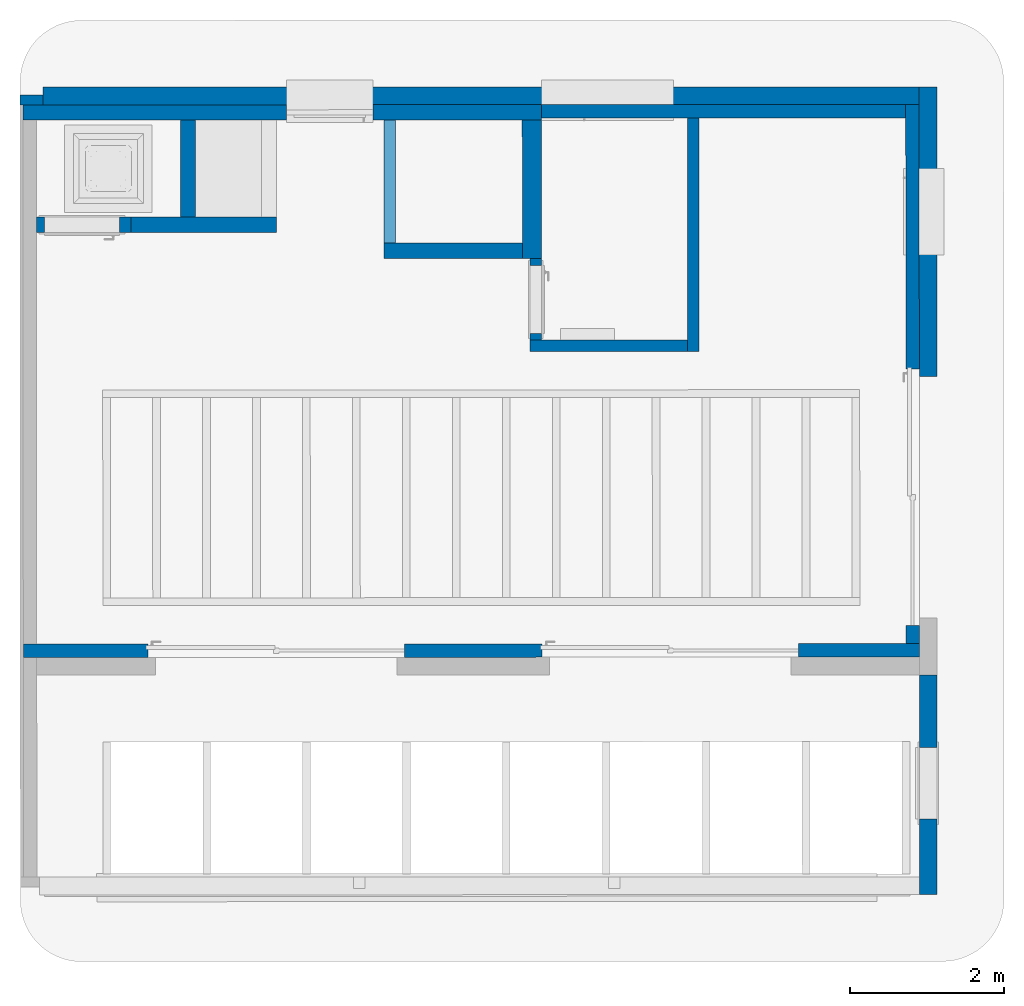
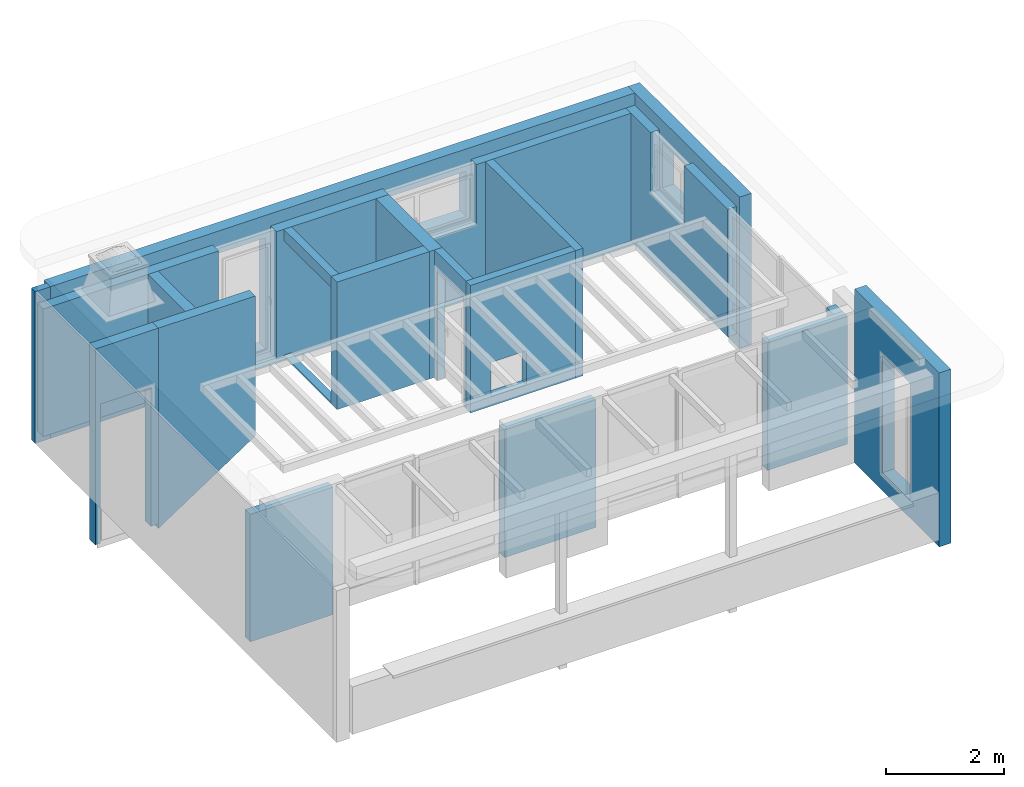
# One storey, part 2 of 7: 17 walls, 14 openings.
"""IFC2X3 building model written with IfcOpenShell, lengths in metres."""

import ifcopenshell
import ifcopenshell.guid

model = None  # the IFC model being written
_history = None  # IfcOwnerHistory: only IFC2X3 demands one
_inside = {}  # id of a spatial element -> (the spatial element, [elements in it])
_under = {}  # id of a project, library or spatial element -> (it, [spatial elements below it])
_declared = {}  # id of a project -> (the project, [libraries it declares])
_typed = {}  # id of a type object -> (the type object, [elements of that type])
_made_of = {}  # id of a material, layer set ... -> (it, [elements and type objects made of it])


def new_model(schema):
    """Start an empty IFC model of exactly this schema.

    Asked for "IFC4X3", IfcOpenShell would pick the latest addendum, in which some entities
    have other attributes; the version numbers below select the first issue.
    IFC2X3 requires an IfcOwnerHistory on every rooted entity: one is made here for all.
    """
    global model, _history
    if schema == "IFC4X3":
        model = ifcopenshell.file(schema_version=(4, 3, 0, 0))
    else:
        model = ifcopenshell.file(schema=schema)
    _inside.clear()
    _under.clear()
    _declared.clear()
    _typed.clear()
    _made_of.clear()
    _history = None
    if model.schema == "IFC2X3":
        org = make("IfcOrganization", Name="unknown")
        user = make(
            "IfcPersonAndOrganization",
            ThePerson=make("IfcPerson", FamilyName="unknown"),
            TheOrganization=org,
        )
        app = make(
            "IfcApplication",
            ApplicationDeveloper=org,
            Version="unknown",
            ApplicationFullName="unknown",
            ApplicationIdentifier="unknown",
        )
        _history = make(
            "IfcOwnerHistory",
            OwningUser=user,
            OwningApplication=app,
            ChangeAction="ADDED",
            CreationDate=0,
        )
    return model


def make(cls, **values):
    """One entity of the class cls with the attributes given. An attribute that is None is left unset."""
    return model.create_entity(
        cls, **{name: value for name, value in values.items() if value is not None}
    )


def entity(cls, *values):
    """Any entity or typed value of the class cls, its attributes in the order of the schema. None: left unset."""
    e = model.create_entity(cls)
    for i, value in enumerate(values):
        if value is not None:
            e[i] = value
    return e


def rooted(cls, **values):
    """An entity with a GlobalId (a new one), such as an element, a storey or a relation."""
    return make(cls, GlobalId=ifcopenshell.guid.new(), OwnerHistory=_history, **values)


def si_unit(unit_type, name, prefix=None):
    """IfcSIUnit, for example si_unit("LENGTHUNIT", "METRE", prefix="MILLI")."""
    return make("IfcSIUnit", UnitType=unit_type, Prefix=prefix, Name=name)


def converted_unit(unit_type, name, factor, base, dimensions=None, offset=None):
    """IfcConversionBasedUnit, such as the inch: factor (a typed value) times the base unit."""
    return make(
        "IfcConversionBasedUnit"
        if offset is None
        else "IfcConversionBasedUnitWithOffset",
        ConversionOffset=offset,
        Dimensions=None
        if dimensions is None
        else entity("IfcDimensionalExponents", *dimensions),
        UnitType=unit_type,
        Name=name,
        ConversionFactor=make(
            "IfcMeasureWithUnit", ValueComponent=factor, UnitComponent=base
        ),
    )


def derived_unit(unit_type, elements):
    """IfcDerivedUnit: a product of units, each with its exponent."""
    return make(
        "IfcDerivedUnit",
        Elements=[
            make("IfcDerivedUnitElement", Unit=unit, Exponent=power)
            for unit, power in elements
        ],
        UnitType=unit_type,
    )


def assignment(units):
    """IfcUnitAssignment: the units of a project."""
    return None if units is None else make("IfcUnitAssignment", Units=units)


def point(xyz):
    """IfcCartesianPoint."""
    return None if xyz is None else make("IfcCartesianPoint", Coordinates=xyz)


def direction(xyz):
    """IfcDirection."""
    return None if xyz is None else make("IfcDirection", DirectionRatios=xyz)


def frame(location, z_axis=None, x_axis=None):
    """IfcAxis2Placement3D, a coordinate frame: its origin and axes. An axis left out is left unset."""
    return make(
        "IfcAxis2Placement3D",
        Location=point(location),
        Axis=direction(z_axis),
        RefDirection=direction(x_axis),
    )


def frame_2d(location, x_axis=None):
    """IfcAxis2Placement2D, a coordinate frame in the plane: its origin and x axis."""
    return make(
        "IfcAxis2Placement2D", Location=point(location), RefDirection=direction(x_axis)
    )


def origin():
    """The frame at (0, 0, 0) with its axes left unset."""
    return frame((0.0, 0.0, 0.0))


def origin_with_axes():
    """The frame at (0, 0, 0) with the z axis (0, 0, 1) and the x axis (1, 0, 0) written out."""
    return frame((0.0, 0.0, 0.0), z_axis=(0.0, 0.0, 1.0), x_axis=(1.0, 0.0, 0.0))


def place(relative_to, where):
    """IfcLocalPlacement: puts the frame where relative to a parent placement (None: the world)."""
    return make(
        "IfcLocalPlacement", PlacementRelTo=relative_to, RelativePlacement=where
    )


def context(
    kind, dimensions, precision=None, world=None, true_north=None, identifier=None
):
    """IfcGeometricRepresentationContext, for example the 3D "Model" context."""
    return make(
        "IfcGeometricRepresentationContext",
        ContextIdentifier=identifier,
        ContextType=kind,
        CoordinateSpaceDimension=dimensions,
        Precision=precision,
        WorldCoordinateSystem=world,
        TrueNorth=true_north,
    )


def subcontext(parent, identifier, kind, view, scale=None):
    """IfcGeometricRepresentationSubContext, for example "Body" below "Model"."""
    return make(
        "IfcGeometricRepresentationSubContext",
        ContextIdentifier=identifier,
        ContextType=kind,
        ParentContext=parent,
        TargetScale=scale,
        TargetView=view,
    )


def project(units=None, contexts=None):
    """IfcProject with its units and contexts."""
    return rooted(
        "IfcProject",
        Name="project",
        RepresentationContexts=contexts,
        UnitsInContext=assignment(units),
    )


def spatial(cls, under=None, at=None, **own):
    """A site, building, storey or space (cls), placed at a placement, below another one or the project."""
    s = rooted(cls, ObjectPlacement=at, **own)
    if under is not None:
        _under.setdefault(under.id(), (under, []))[1].append(s)
    return s


def profile(cls, at=None, kind="AREA", **sizes):
    """A parametric profile (cls). Its sizes go by their IFC names, for example OverallWidth=200.0."""
    return make(cls, ProfileType=kind, Position=at, **sizes)


def rectangle(**sizes):
    """IfcRectangleProfileDef."""
    return profile("IfcRectangleProfileDef", **sizes)


def extrude(swept, where, along, depth):
    """IfcExtrudedAreaSolid: the profile swept, set in the frame where, extruded along a direction by depth."""
    return make(
        "IfcExtrudedAreaSolid",
        SweptArea=swept,
        Position=where,
        ExtrudedDirection=direction(along),
        Depth=depth,
    )


def clip(a, b, op="DIFFERENCE"):
    """IfcBooleanClippingResult: the solid a cut by the half space b."""
    return make(
        "IfcBooleanClippingResult", Operator=op, FirstOperand=a, SecondOperand=b
    )


def halfspace(plane, agree):
    """IfcHalfSpaceSolid: all space on one side of the plane z = 0 of the frame plane."""
    return make(
        "IfcHalfSpaceSolid",
        BaseSurface=make("IfcPlane", Position=plane),
        AgreementFlag=agree,
    )


def faces_of(points, faces, orient=None, outer=None):
    """IfcFace entities. A face is a list of loops; a loop is a list of indices into points, from 0.

    orient and outer hold one flag for each loop. By default every Orientation is true, the
    first loop of a face is its IfcFaceOuterBound and the others are IfcFaceBound.
    """
    made = []
    for i, loops in enumerate(faces):
        bounds = []
        for j, loop in enumerate(loops):
            is_outer = j == 0 if outer is None else outer[i][j]
            bounds.append(
                make(
                    "IfcFaceOuterBound" if is_outer else "IfcFaceBound",
                    Bound=make("IfcPolyLoop", Polygon=[points[k] for k in loop]),
                    Orientation=True if orient is None else orient[i][j],
                )
            )
        made.append(make("IfcFace", Bounds=bounds))
    return made


def faceted_brep(points, faces, orient=None, outer=None, voids=None):
    """IfcFacetedBrep: a solid bounded by flat faces; with voids (closed shells), ...WithVoids."""
    shared = [point(p) for p in points]
    hull = make("IfcClosedShell", CfsFaces=faces_of(shared, faces, orient, outer))
    if voids is None:
        return make("IfcFacetedBrep", Outer=hull)
    return make(
        "IfcFacetedBrepWithVoids",
        Outer=hull,
        Voids=[
            make(cls, CfsFaces=faces_of(shared, fs, o, b)) for cls, fs, o, b in voids
        ],
    )


def shape(context_of_items, identifier, shape_type, items):
    """IfcShapeRepresentation: the items that make up one representation, for example the "Body"."""
    return make(
        "IfcShapeRepresentation",
        ContextOfItems=context_of_items,
        RepresentationIdentifier=identifier,
        RepresentationType=shape_type,
        Items=items,
    )


def material(Name=None, Category=None):
    """IfcMaterial."""
    return make("IfcMaterial", Name=Name, Category=Category)


def layer(
    of_material, thickness, ventilated=None, Name=None, Category=None, Priority=None
):
    """IfcMaterialLayer: one layer of a wall or slab, of a material (None: an air gap)."""
    return make(
        "IfcMaterialLayer",
        Material=of_material,
        LayerThickness=thickness,
        IsVentilated=ventilated,
        Name=Name,
        Category=Category,
        Priority=Priority,
    )


def layer_set(layers, Name=None):
    """IfcMaterialLayerSet."""
    return make("IfcMaterialLayerSet", MaterialLayers=layers, LayerSetName=Name)


def layer_usage(for_layer_set, set_direction, sense, offset, extent=None):
    """IfcMaterialLayerSetUsage: how a layer set lies in its element."""
    return make(
        "IfcMaterialLayerSetUsage",
        ForLayerSet=for_layer_set,
        LayerSetDirection=set_direction,
        DirectionSense=sense,
        OffsetFromReferenceLine=offset,
        ReferenceExtent=extent,
    )


def made_of(thing, what):
    """Note that an element or type object is made of a material, layer set ...; save() writes the relation."""
    if what is not None:
        _made_of.setdefault(what.id(), (what, []))[1].append(thing)
    return thing


def element(
    cls,
    number,
    at=None,
    inside=None,
    cuts=None,
    type_object=None,
    material=None,
    context=None,
    identifier="Body",
    shape_type=None,
    held_by="IfcProductDefinitionShape",
    body=None,
    shapes=None,
    **own,
):
    """One element of the class cls, such as IfcWall. Its Tag is "e" and its number.

    at: its placement. inside: the storey or other place that contains it. cuts: it is an
    opening in that element (IfcRelVoidsElement). A single representation is given by context,
    identifier, shape_type and body (its items); several are given by shapes. held_by: the class
    of the entity that holds the representations. save() writes the other relations.
    """
    e = rooted(cls, Tag="e%d" % number, ObjectPlacement=at, **own)
    if body is not None:
        shapes = [shape(context, identifier, shape_type, body)]
    if shapes is not None:
        e.Representation = make(held_by, Representations=shapes)
    if inside is not None:
        _inside.setdefault(inside.id(), (inside, []))[1].append(e)
    if cuts is not None:
        rooted(
            "IfcRelVoidsElement", RelatingBuildingElement=cuts, RelatedOpeningElement=e
        )
    if type_object is not None:
        _typed.setdefault(type_object.id(), (type_object, []))[1].append(e)
    return made_of(e, material)


def aggregate(whole, parts):
    """IfcRelAggregates: a whole, such as a stair, and the parts it consists of."""
    return rooted("IfcRelAggregates", RelatingObject=whole, RelatedObjects=parts)


def save(model, path):
    """Write the relations noted so far, then the file.

    IfcRelAggregates (storeys below a building ...), IfcRelContainedInSpatialStructure (elements
    in a storey), IfcRelDefinesByType, IfcRelAssociatesMaterial and IfcRelDeclares: one each for
    every whole, place, type object, material and project.
    """
    for whole, parts in _under.values():
        aggregate(whole, parts)
    for where, things in _inside.values():
        rooted(
            "IfcRelContainedInSpatialStructure",
            RelatedElements=things,
            RelatingStructure=where,
        )
    for kind, things in _typed.values():
        rooted("IfcRelDefinesByType", RelatedObjects=things, RelatingType=kind)
    for what, things in _made_of.values():
        rooted("IfcRelAssociatesMaterial", RelatedObjects=things, RelatingMaterial=what)
    for by, libraries in _declared.values():
        rooted("IfcRelDeclares", RelatingContext=by, RelatedDefinitions=libraries)
    model.write(path)


model = new_model("IFC2X3")

# Units and contexts
model_context = context("Model", 3, precision=1e-05, world=origin(), true_north=direction((0.772621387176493, -0.634867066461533)))
body_context = subcontext(model_context, "Body", "Model", "MODEL_VIEW")
ifc_project = project(units=[si_unit("LENGTHUNIT", "METRE"), si_unit("AREAUNIT", "SQUARE_METRE"), si_unit("VOLUMEUNIT", "CUBIC_METRE"), si_unit("MASSUNIT", "GRAM", prefix="KILO"), converted_unit("PLANEANGLEUNIT", "DEGREE", entity("IfcPlaneAngleMeasure", 0.0174532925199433), si_unit("PLANEANGLEUNIT", "RADIAN"), dimensions=[0, 0, 0, 0, 0, 0, 0]), derived_unit("THERMALTRANSMITTANCEUNIT", [(si_unit("POWERUNIT", "WATT"), 1), (si_unit("THERMODYNAMICTEMPERATUREUNIT", "KELVIN"), -1), (si_unit("LENGTHUNIT", "METRE"), -2)]), derived_unit("VOLUMETRICFLOWRATEUNIT", [(si_unit("LENGTHUNIT", "METRE"), 3), (converted_unit("TIMEUNIT", "hour", entity("IfcTimeMeasure", 3600.0), si_unit("TIMEUNIT", "SECOND"), dimensions=[0, 0, 1, 0, 0, 0, 0]), -1), (si_unit("LENGTHUNIT", "METRE"), -1)])], contexts=[model_context])

# Site, building, storey
site_placement = place(None, origin())
site = spatial("IfcSite", under=ifc_project, at=site_placement, Name="Modelle auf dem Nullpunkt", CompositionType="ELEMENT")
building_placement = place(site_placement, origin())
building = spatial("IfcBuilding", under=site, at=building_placement, Name="I", CompositionType="ELEMENT")
storey_placement = place(building_placement, origin())
storey = spatial("IfcBuildingStorey", under=building, at=storey_placement, Name="3.OG", CompositionType="ELEMENT", Elevation=0.0)

# Walls
ifc_material_1 = material(Name="Béton")
ifc_layer_1 = layer(ifc_material_1, 0.249999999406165)
ifc_layer_set_1 = layer_set([ifc_layer_1])
ifc_layer_usage_1 = layer_usage(ifc_layer_set_1, "AXIS2", "POSITIVE", -4.22370471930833e-16)
wall_1_placement = place(storey_placement, frame((36.1126542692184, 0.138998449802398, 444.6), z_axis=(0.0, 0.0, 1.0), x_axis=(-0.000353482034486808, 0.999999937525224, 0.0)))
element("IfcWallStandardCase", 1, at=wall_1_placement, inside=storey, material=ifc_layer_usage_1, Name="Betonwand", context=body_context, shape_type="SweptSolid", body=[
    extrude(rectangle(XDim=1.79999999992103, YDim=0.249999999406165, at=frame_2d((0.899999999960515, 0.124999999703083), x_axis=(1.0, 0.0))), origin_with_axes(), (0.0, 0.0, 1.0), 2.63),
])
ifc_material_2 = material(Name="Béton")
ifc_layer_2 = layer(ifc_material_2, 0.199999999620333)
ifc_layer_set_2 = layer_set([ifc_layer_2])
ifc_layer_usage_2 = layer_usage(ifc_layer_set_2, "AXIS2", "POSITIVE", -9.19403442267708e-17)
wall_2_placement = place(storey_placement, frame((35.8625835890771, 0.338910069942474, 444.6), z_axis=(0.0, 0.0, 1.0), x_axis=(-0.999999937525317, -0.000353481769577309, 0.0)))
element("IfcWallStandardCase", 2, at=wall_2_placement, inside=storey, material=ifc_layer_usage_2, Name="Betonwand", context=body_context, shape_type="SweptSolid", body=[
    extrude(rectangle(XDim=1.79999999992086, YDim=0.199999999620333, at=frame_2d((0.89999999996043, 0.0999999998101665), x_axis=(1.0, 0.0))), origin_with_axes(), (0.0, 0.0, 1.0), 2.63),
])
ifc_material_3 = material(Name="Isolation périphérique")
ifc_layer_3 = layer(ifc_material_3, 0.130000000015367)
ifc_layer_set_3 = layer_set([ifc_layer_3])
ifc_layer_usage_3 = layer_usage(ifc_layer_set_3, "AXIS2", "POSITIVE", -3.04754372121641e-16)
wall_3_placement = place(storey_placement, frame((29.3269477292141, 2.13659994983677, 444.35), z_axis=(0.0, 0.0, 1.0), x_axis=(0.999999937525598, 0.000353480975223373, 0.0)))
element("IfcWallStandardCase", 3, at=wall_3_placement, inside=storey, material=ifc_layer_usage_3, context=body_context, shape_type="SweptSolid", body=[
    extrude(rectangle(XDim=0.299999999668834, YDim=0.130000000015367, at=frame_2d((0.149999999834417, 0.0650000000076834), x_axis=(1.0, 0.0))), origin_with_axes(), (0.0, 0.0, 1.0), 3.13),
])
ifc_material_4 = material(Name="Brique")
ifc_layer_4 = layer(ifc_material_4, 0.149999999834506)
ifc_layer_set_4 = layer_set([ifc_layer_4])
ifc_layer_usage_4 = layer_usage(ifc_layer_set_4, "AXIS2", "POSITIVE", 0.0)
wall_4_placement = place(storey_placement, frame((38.012009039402, 1.96466994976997, 444.6), z_axis=(0.0, 0.0, 1.0), x_axis=(0.000353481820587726, -0.999999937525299, 0.0)))
element("IfcWallStandardCase", 4, at=wall_4_placement, inside=storey, material=ifc_layer_usage_4, context=body_context, shape_type="SweptSolid", body=[
    extrude(rectangle(XDim=3.03500000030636, YDim=0.149999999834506, at=frame_2d((1.51750000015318, 0.0749999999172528), x_axis=(1.0, 0.0))), origin_with_axes(), (0.0, 0.0, 1.0), 2.63),
])
ifc_material_5 = material(Name="Béton")
ifc_layer_5 = layer(ifc_material_5, 0.199999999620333)
ifc_layer_set_5 = layer_set([ifc_layer_5])
ifc_layer_usage_5 = layer_usage(ifc_layer_set_5, "AXIS2", "POSITIVE", -1.01228423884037e-16)
wall_5_placement = place(storey_placement, frame((32.6628607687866, 0.67777903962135, 443.096639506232), z_axis=(0.0, 0.0, 1.0), x_axis=(-0.999999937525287, -0.00035348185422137, 0.0)))
element("IfcWallStandardCase", 5, at=wall_5_placement, inside=storey, material=ifc_layer_usage_5, Name="Betonwand", context=body_context, shape_type="Clipping", body=[
    clip(extrude(rectangle(XDim=1.89006234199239, YDim=0.199999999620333, at=frame_2d((0.945031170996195, 0.0999999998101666), x_axis=(1.0, 0.0))), origin_with_axes(), (0.0, 0.0, 1.0), 4.13336049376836), halfspace(frame((0.945031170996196, 0.0999999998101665, 0.623459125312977), z_axis=(0.550681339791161, -2.87905794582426e-11, 0.834715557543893), x_axis=(-5.83468820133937e-15, -1.0, -3.46335583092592e-11)), True)),
])
ifc_material_6 = material(Name="Béton")
ifc_layer_6 = layer(ifc_material_6, 0.200000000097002)
ifc_layer_set_6 = layer_set([ifc_layer_6])
ifc_layer_usage_6 = layer_usage(ifc_layer_set_6, "AXIS2", "POSITIVE", -3.21489693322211e-19)
wall_6_placement = place(storey_placement, frame((31.4120182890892, 1.93733696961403, 445.168), z_axis=(0.0, 0.0, 1.0), x_axis=(0.000353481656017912, -0.999999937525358, 0.0)))
element("IfcWallStandardCase", 6, at=wall_6_placement, inside=storey, material=ifc_layer_usage_6, Name="Betonwand", context=body_context, shape_type="SweptSolid", body=[
    extrude(rectangle(XDim=1.26000000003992, YDim=0.200000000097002, at=frame_2d((0.63000000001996, 0.100000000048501), x_axis=(1.0, 0.0))), origin_with_axes(), (0.0, 0.0, 1.0), 2.062),
])

# Wall, opening
ifc_material_7 = material(Name="Béton")
wall_7_placement = place(storey_placement, frame((34.0620181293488, 0.338273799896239, 444.6)))
wall_7 = element("IfcWall", 7, at=wall_7_placement, inside=storey, material=ifc_material_7, Name="Betonwand", context=body_context, shape_type="Brep", body=[
    faceted_brep([(0.0, 1.5999998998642, 0.0), (0.1499999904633, 1.60005292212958, 0.0), (0.1499999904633, 1.60005292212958, 2.63), (0.0, 1.5999998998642, 2.63), (0.150565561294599, 5.30222653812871e-05, 0.0), (0.150565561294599, 5.30222653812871e-05, 2.63), (0.000565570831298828, 0.0, 0.0), (0.000565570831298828, 0.0, 2.63)], [[[0, 1, 2, 3]], [[1, 4, 5, 2]], [[4, 6, 7, 5]], [[6, 0, 3, 7]], [[3, 2, 5, 7]], [[0, 6, 4, 1]]], orient=[[False], [False], [False], [False], [False], [False]]),
])
opening_1_placement = place(wall_7_placement, frame((0.0, 0.0, 0.035)))
element("IfcOpeningElement", 8, at=opening_1_placement, cuts=wall_7, ObjectType="Opening", context=body_context, shape_type="Brep", body=[
    faceted_brep([(0.15056556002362, 5.30221462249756e-05, 0.0), (0.15056556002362, 5.30221462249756e-05, 2.365), (0.149999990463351, 1.60005292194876, 2.365), (0.149999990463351, 1.60005292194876, 0.0), (0.000565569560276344, 0.0, 0.0), (0.0, 1.59999989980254, 0.0), (0.0, 1.59999989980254, 2.365), (0.000565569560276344, 0.0, 2.365)], [[[0, 1, 2, 3]], [[4, 5, 6, 7]], [[3, 5, 4, 0]], [[2, 6, 5, 3]], [[1, 7, 6, 2]], [[0, 4, 7, 1]]], orient=[[False], [False], [False], [False], [False], [False]]),
])

# Wall, openings
ifc_material_8 = material(Name="Béton")
wall_8_placement = place(storey_placement, frame((40.851947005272, -4.87432573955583, 444.6)))
wall_8 = element("IfcWall", 9, at=wall_8_placement, inside=storey, material=ifc_material_8, Name="Betonwand", context=body_context, shape_type="Brep", body=[
    faceted_brep([(0.177479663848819, 6.18593029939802e-05, 0.0), (0.00247967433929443, 0.0, 0.0), (0.00247967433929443, 0.0, 2.63), (0.177479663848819, 6.18593029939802e-05, 2.63), (0.0, 7.01499956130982, 0.0), (0.0, 7.01499956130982, 2.63), (0.174999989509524, 7.01506142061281, 0.0), (0.174999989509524, 7.01506142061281, 2.63)], [[[0, 1, 2, 3]], [[1, 4, 5, 2]], [[4, 6, 7, 5]], [[6, 0, 3, 7]], [[3, 2, 5, 7]], [[0, 6, 4, 1]]], orient=[[False], [False], [False], [False], [False], [False]]),
])
opening_2_placement = place(wall_8_placement, frame((0.001215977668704, 0.234999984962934, 0.0)))
element("IfcOpeningElement", 10, at=opening_2_placement, cuts=wall_8, ObjectType="Opening", context=body_context, shape_type="Brep", body=[
    faceted_brep([(0.0, 3.33999979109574, 0.0), (0.0, 3.33999979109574, 2.63), (0.00118063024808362, 0.0, 2.63), (0.00118063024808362, 0.0, 0.0), (0.176180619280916, 6.18593692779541e-05, 0.0), (0.176180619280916, 6.18593692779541e-05, 2.63), (0.174999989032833, 3.34006165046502, 2.63), (0.174999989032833, 3.34006165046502, 0.0)], [[[0, 1, 2, 3]], [[4, 5, 6, 7]], [[1, 0, 7, 6]], [[2, 1, 6, 5]], [[3, 2, 5, 4]], [[4, 7, 0, 3]]], orient=[[False], [False], [False], [False], [False], [False]]),
])
opening_3_placement = place(wall_8_placement, frame((0.000293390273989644, 5.05499968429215, 1.39)))
element("IfcOpeningElement", 11, at=opening_3_placement, cuts=wall_8, ObjectType="Opening", context=body_context, shape_type="Brep", body=[
    faceted_brep([(0.000399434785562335, 0.0, 0.0), (0.0, 1.12999992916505, 0.0), (0.0, 1.12999992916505, 1.24), (0.000399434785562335, 0.0, 1.24), (0.175399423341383, 6.18593692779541e-05, 0.0), (0.175399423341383, 6.18593692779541e-05, 1.24), (0.174999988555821, 1.13006178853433, 1.24), (0.174999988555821, 1.13006178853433, 0.0)], [[[0, 1, 2, 3]], [[4, 5, 6, 7]], [[1, 0, 4, 7]], [[2, 1, 7, 6]], [[3, 2, 6, 5]], [[0, 3, 5, 4]]], orient=[[False], [False], [False], [False], [False], [False]]),
])

# Wall, opening
ifc_material_9 = material(Name="Isolation périphérique")
wall_9_placement = place(storey_placement, frame((41.0295698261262, -8.13926367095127, 444.35)))
wall_9 = element("IfcWall", 12, at=wall_9_placement, inside=storey, material=ifc_material_9, context=body_context, shape_type="Brep", body=[
    faceted_brep([(0.231010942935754, 8.1300795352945e-05, 0.0), (0.00101095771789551, 0.0, 0.0), (0.00101095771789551, 0.0, 3.59), (0.231010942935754, 8.1300795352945e-05, 3.59), (0.0, 2.85999982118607, 0.0), (0.0, 2.85999982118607, 3.59), (0.229999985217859, 2.86008112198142, 0.0), (0.229999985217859, 2.86008112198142, 3.59)], [[[0, 1, 2, 3]], [[1, 4, 5, 2]], [[4, 6, 7, 5]], [[6, 0, 3, 7]], [[3, 2, 5, 7]], [[0, 6, 4, 1]]], orient=[[False], [False], [False], [False], [False], [False]]),
])
opening_4_placement = place(wall_9_placement, frame((0.000334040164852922, 0.984999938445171, 0.37)))
element("IfcOpeningElement", 13, at=opening_4_placement, cuts=wall_9, ObjectType="Opening", context=body_context, shape_type="Brep", body=[
    faceted_brep([(0.000328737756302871, 0.0, 0.0), (0.0, 0.929999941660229, 0.0), (0.0, 0.929999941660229, 2.41), (0.000328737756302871, 0.0, 2.41), (0.230328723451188, 8.13007354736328e-05, 0.0), (0.230328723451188, 8.13007354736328e-05, 2.41), (0.229999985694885, 0.930081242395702, 2.41), (0.229999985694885, 0.930081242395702, 0.0)], [[[0, 1, 2, 3]], [[4, 5, 6, 7]], [[1, 0, 4, 7]], [[2, 1, 7, 6]], [[3, 2, 6, 5]], [[0, 3, 5, 4]]], orient=[[False], [False], [False], [False], [False], [False]]),
])

ifc_material_10 = material(Name="Béton")
wall_10_placement = place(storey_placement, frame((29.5424637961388, 0.476676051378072, 443.19)))
wall_10 = element("IfcWall", 14, at=wall_10_placement, inside=storey, material=ifc_material_10, Name="Betonwand", context=body_context, shape_type="Brep", body=[
    faceted_brep([(1.23033475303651, 0.200434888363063, 0.0), (1.23040544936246, 0.000434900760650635, 0.0), (1.23040544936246, 0.000434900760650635, 4.04), (1.23033475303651, 0.200434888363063, 4.04), (7.06963259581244e-05, 0.0, 0.0), (7.06963259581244e-05, 0.0, 4.04), (0.0, 0.199999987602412, 0.0), (0.0, 0.199999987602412, 4.04)], [[[0, 1, 2, 3]], [[1, 4, 5, 2]], [[4, 6, 7, 5]], [[6, 0, 3, 7]], [[3, 2, 5, 7]], [[0, 6, 4, 1]]], orient=[[False], [False], [False], [False], [False], [False]]),
])
opening_5_placement = place(wall_10_placement, frame((0.0999999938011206, 3.53479387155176e-05, 0.0)))
element("IfcOpeningElement", 15, at=opening_5_placement, cuts=wall_10, ObjectType="Opening", context=body_context, shape_type="Brep", body=[
    faceted_brep([(0.980070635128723, 0.000346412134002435, 0.0), (7.06963539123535e-05, 0.0, 0.0), (7.06963539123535e-05, 0.0, 2.87), (0.980070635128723, 0.000346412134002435, 2.87), (0.97999993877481, 0.200346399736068, 0.0), (0.97999993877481, 0.200346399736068, 2.87), (0.0, 0.199999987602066, 2.87), (0.0, 0.199999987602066, 0.0)], [[[0, 1, 2, 3]], [[4, 5, 6, 7]], [[1, 0, 4, 7]], [[2, 1, 7, 6]], [[3, 2, 6, 5]], [[0, 3, 5, 4]]], orient=[[False], [False], [False], [False], [False], [False]]),
])

ifc_material_11 = material(Name="Brique")
wall_11_placement = place(storey_placement, frame((35.9630289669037, -1.07105449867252, 444.6)))
wall_11 = element("IfcWall", 16, at=wall_11_placement, inside=storey, material=ifc_material_11, context=body_context, shape_type="Brep", body=[
    faceted_brep([(2.04999987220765, 0.150724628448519, 0.0), (2.05005289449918, 0.000724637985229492, 0.0), (2.05005289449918, 0.000724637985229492, 2.63), (2.04999987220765, 0.150724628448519, 2.63), (5.30222915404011e-05, 0.0, 0.0), (5.30222915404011e-05, 0.0, 2.63), (0.0, 0.14999999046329, 0.0), (0.0, 0.14999999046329, 2.63)], [[[0, 1, 2, 3]], [[1, 4, 5, 2]], [[4, 6, 7, 5]], [[6, 0, 3, 7]], [[3, 2, 5, 7]], [[0, 6, 4, 1]]], orient=[[False], [False], [False], [False], [False], [False]]),
])
opening_6_placement = place(wall_11_placement, frame((0.399999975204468, 0.000141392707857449, 0.2)))
element("IfcOpeningElement", 17, at=opening_6_placement, cuts=wall_11, ObjectType="Opening", context=body_context, shape_type="Brep", body=[
    faceted_brep([(0.700052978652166, 0.000247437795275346, 0.0), (5.30223846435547e-05, 0.0, 0.0), (5.30223846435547e-05, 0.0, 0.7), (0.700052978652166, 0.000247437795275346, 0.7), (0.699999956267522, 0.150247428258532, 0.0), (0.699999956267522, 0.150247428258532, 0.7), (0.0, 0.149999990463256, 0.7), (0.0, 0.149999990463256, 0.0)], [[[0, 1, 2, 3]], [[4, 5, 6, 7]], [[1, 0, 4, 7]], [[2, 1, 7, 6]], [[3, 2, 6, 5]], [[0, 3, 5, 4]]], orient=[[False], [False], [False], [False], [False], [False]]),
])

ifc_material_12 = material(Name="Brique")
wall_12_placement = place(storey_placement, frame((35.9626542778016, -0.921054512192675, 444.6)))
wall_12 = element("IfcWall", 18, at=wall_12_placement, inside=storey, material=ifc_material_12, context=body_context, shape_type="Brep", body=[
    faceted_brep([(0.150374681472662, 5.30222453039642e-05, 0.0), (0.000374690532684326, 0.0, 0.0), (0.000374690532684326, 0.0, 2.63), (0.150374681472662, 5.30222453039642e-05, 2.63), (0.0, 1.05999993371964, 0.0), (0.0, 1.05999993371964, 2.63), (0.149999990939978, 1.06005295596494, 0.0), (0.149999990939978, 1.06005295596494, 2.63)], [[[0, 1, 2, 3]], [[1, 4, 5, 2]], [[4, 6, 7, 5]], [[6, 0, 3, 7]], [[3, 2, 5, 7]], [[0, 6, 4, 1]]], orient=[[False], [False], [False], [False], [False], [False]]),
])
opening_7_placement = place(wall_12_placement, frame((3.35807799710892e-05, 0.0849999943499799, 0.0)))
element("IfcOpeningElement", 19, at=opening_7_placement, cuts=wall_12, ObjectType="Opening", context=body_context, shape_type="Brep", body=[
    faceted_brep([(0.000311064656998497, 0.0, 0.0), (0.0, 0.879999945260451, 0.0), (0.0, 0.879999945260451, 2.27), (0.000311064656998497, 0.0, 2.27), (0.150311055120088, 5.30223846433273e-05, 0.0), (0.150311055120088, 5.30223846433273e-05, 2.27), (0.149999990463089, 0.880052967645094, 2.27), (0.149999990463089, 0.880052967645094, 0.0)], [[[0, 1, 2, 3]], [[4, 5, 6, 7]], [[1, 0, 4, 7]], [[2, 1, 7, 6]], [[3, 2, 6, 5]], [[0, 3, 5, 4]]], orient=[[False], [False], [False], [False], [False], [False]]),
])

ifc_material_13 = material(Name="Béton")
wall_13_placement = place(storey_placement, frame((29.3669477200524, 1.93661409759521, 444.6)))
wall_13 = element("IfcWall", 20, at=wall_13_placement, inside=storey, material=ifc_material_13, Name="Betonwand", context=body_context, shape_type="Brep", body=[
    faceted_brep([(6.74499957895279, 0.202384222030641, 0.0), (6.74507027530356, 0.00238423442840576, 0.0), (6.74507027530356, 0.00238423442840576, 2.63), (6.74499957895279, 0.202384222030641, 2.63), (7.06963507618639e-05, 0.0, 0.0), (7.06963507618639e-05, 0.0, 2.63), (0.0, 0.199999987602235, 0.0), (0.0, 0.199999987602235, 2.63)], [[[0, 1, 2, 3]], [[1, 4, 5, 2]], [[4, 6, 7, 5]], [[6, 0, 3, 7]], [[3, 2, 5, 7]], [[0, 6, 4, 1]]], orient=[[False], [False], [False], [False], [False], [False]]),
])
opening_8_placement = place(wall_13_placement, frame((3.42499978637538, 0.00121067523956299, 0.0)))
element("IfcOpeningElement", 21, at=opening_8_placement, cuts=wall_13, ObjectType="Opening", context=body_context, shape_type="Brep", body=[
    faceted_brep([(1.13007062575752, 0.000399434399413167, 0.0), (7.06963539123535e-05, 0.0, 0.0), (7.06963539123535e-05, 0.0, 2.63), (1.13007062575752, 0.000399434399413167, 2.63), (1.12999992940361, 0.200399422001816, 0.0), (1.12999992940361, 0.200399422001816, 2.63), (0.0, 0.199999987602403, 2.63), (0.0, 0.199999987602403, 0.0)], [[[0, 1, 2, 3]], [[4, 5, 6, 7]], [[1, 0, 4, 7]], [[2, 1, 7, 6]], [[3, 2, 6, 5]], [[0, 3, 5, 4]]], orient=[[False], [False], [False], [False], [False], [False]]),
])

ifc_material_14 = material(Name="Isolation périphérique")
wall_14_placement = place(storey_placement, frame((41.0268656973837, -1.39926409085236, 444.35)))
wall_14 = element("IfcWall", 22, at=wall_14_placement, inside=storey, material=ifc_material_14, context=body_context, shape_type="Brep", body=[
    faceted_brep([(0.231332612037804, 8.13008113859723e-05, 0.0), (0.00133262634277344, 0.0, 0.0), (0.00133262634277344, 0.0, 3.13), (0.231332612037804, 8.13008113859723e-05, 3.13), (0.0, 3.76999976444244, 0.0), (0.0, 3.76999976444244, 3.13), (0.229999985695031, 3.77008106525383, 0.0), (0.229999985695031, 3.77008106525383, 3.13)], [[[0, 1, 2, 3]], [[1, 4, 5, 2]], [[4, 6, 7, 5]], [[6, 0, 3, 7]], [[3, 2, 5, 7]], [[0, 6, 4, 1]]], orient=[[False], [False], [False], [False], [False], [False]]),
])
opening_9_placement = place(wall_14_placement, frame((0.000410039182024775, 1.67999989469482, 1.74)))
element("IfcOpeningElement", 23, at=opening_9_placement, cuts=wall_14, ObjectType="Opening", context=body_context, shape_type="Brep", body=[
    faceted_brep([(0.230328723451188, 8.1300735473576e-05, 0.0), (0.230328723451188, 8.1300735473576e-05, 0.93), (0.229999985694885, 0.930081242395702, 0.93), (0.229999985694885, 0.930081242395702, 0.0), (0.000328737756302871, 0.0, 0.0), (0.0, 0.929999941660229, 0.0), (0.0, 0.929999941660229, 0.93), (0.000328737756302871, 0.0, 0.93)], [[[0, 1, 2, 3]], [[4, 5, 6, 7]], [[3, 5, 4, 0]], [[2, 6, 5, 3]], [[1, 7, 6, 2]], [[0, 4, 7, 1]]], orient=[[False], [False], [False], [False], [False], [False]]),
])

# Wall, openings
ifc_material_15 = material(Name="Isolation périphérique")
wall_15_placement = place(storey_placement, frame((29.6268664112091, 2.13670599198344, 444.35)))
wall_15 = element("IfcWall", 24, at=wall_15_placement, inside=storey, material=ifc_material_15, context=body_context, shape_type="Brep", body=[
    faceted_brep([(11.3999992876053, 0.234029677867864, 0.0), (11.4000805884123, 0.00402969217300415, 0.0), (11.4000805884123, 0.00402969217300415, 3.13), (11.3999992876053, 0.234029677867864, 3.13), (8.13008070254e-05, 0.0, 0.0), (8.13008070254e-05, 0.0, 3.13), (0.0, 0.22999998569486, 0.0), (0.0, 0.22999998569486, 3.13)], [[[0, 1, 2, 3]], [[1, 4, 5, 2]], [[4, 6, 7, 5]], [[6, 0, 3, 7]], [[3, 2, 5, 7]], [[0, 6, 4, 1]]], orient=[[False], [False], [False], [False], [False], [False]]),
])
opening_10_placement = place(wall_15_placement, frame((6.5849995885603, 0.00232767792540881, 1.74)))
element("IfcOpeningElement", 25, at=opening_10_placement, cuts=wall_15, ObjectType="Opening", context=body_context, shape_type="Brep", body=[
    faceted_brep([(1.51999990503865, 0.230537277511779, 0.0), (1.51999990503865, 0.230537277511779, 0.93), (0.0, 0.229999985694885, 0.93), (0.0, 0.229999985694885, 0.0), (1.52008120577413, 0.00053729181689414, 0.0), (8.13007354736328e-05, 0.0, 0.0), (8.13007354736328e-05, 0.0, 0.93), (1.52008120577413, 0.00053729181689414, 0.93)], [[[0, 1, 2, 3]], [[4, 5, 6, 7]], [[3, 5, 4, 0]], [[2, 6, 5, 3]], [[1, 7, 6, 2]], [[0, 4, 7, 1]]], orient=[[False], [False], [False], [False], [False], [False]]),
])
opening_11_placement = place(wall_15_placement, frame((3.26499979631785, 0.00115411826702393, 0.38)))
element("IfcOpeningElement", 26, at=opening_11_placement, cuts=wall_15, ObjectType="Opening", context=body_context, shape_type="Brep", body=[
    faceted_brep([(0.929999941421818, 0.230328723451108, 0.0), (0.929999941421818, 0.230328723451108, 2.29), (0.0, 0.229999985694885, 2.29), (0.0, 0.229999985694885, 0.0), (0.930081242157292, 0.000328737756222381, 0.0), (8.13007354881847e-05, 0.0, 0.0), (8.13007354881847e-05, 0.0, 2.29), (0.930081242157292, 0.000328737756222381, 2.29)], [[[0, 1, 2, 3]], [[4, 5, 6, 7]], [[3, 5, 4, 0]], [[2, 6, 5, 3]], [[1, 7, 6, 2]], [[0, 4, 7, 1]]], orient=[[False], [False], [False], [False], [False], [False]]),
])

ifc_material_16 = material(Name="Brique")
wall_16_placement = place(storey_placement, frame((29.369427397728, -5.05338546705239, 444.6)))
wall_16 = element("IfcWall", 27, at=wall_16_placement, inside=storey, material=ifc_material_16, context=body_context, shape_type="Brep", body=[
    faceted_brep([(11.6599992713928, 0.179121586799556, 0.0), (11.6600611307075, 0.00412159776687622, 0.0), (11.6600611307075, 0.00412159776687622, 2.63), (11.6599992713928, 0.179121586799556, 2.63), (6.18593146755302e-05, 0.0, 0.0), (6.18593146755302e-05, 0.0, 2.63), (0.0, 0.17499998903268, 0.0), (0.0, 0.17499998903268, 2.63)], [[[0, 1, 2, 3]], [[1, 4, 5, 2]], [[4, 6, 7, 5]], [[6, 0, 3, 7]], [[3, 2, 5, 7]], [[0, 6, 4, 1]]], orient=[[False], [False], [False], [False], [False], [False]]),
])
opening_12_placement = place(wall_16_placement, frame((6.74999957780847, 0.00238600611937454, 0.0)))
element("IfcOpeningElement", 28, at=opening_12_placement, cuts=wall_16, ObjectType="Opening", context=body_context, shape_type="Brep", body=[
    faceted_brep([(3.33999979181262, 0.176180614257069, 0.0), (3.33999979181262, 0.176180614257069, 2.63), (0.0, 0.174999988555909, 2.63), (0.0, 0.174999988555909, 0.0), (3.34006165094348, 0.00118062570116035, 0.0), (6.1859130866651e-05, 0.0, 0.0), (6.1859130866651e-05, 0.0, 2.63), (3.34006165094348, 0.00118062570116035, 2.63)], [[[0, 1, 2, 3]], [[4, 5, 6, 7]], [[3, 5, 4, 0]], [[2, 6, 5, 3]], [[1, 7, 6, 2]], [[0, 4, 7, 1]]], orient=[[False], [False], [False], [False], [False], [False]]),
])
opening_13_placement = place(wall_16_placement, frame((1.61999989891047, 0.000572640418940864, 0.0)))
element("IfcOpeningElement", 29, at=opening_13_placement, cuts=wall_16, ObjectType="Opening", context=body_context, shape_type="Brep", body=[
    faceted_brep([(3.34006165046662, 0.00118062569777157, 0.0), (6.1859130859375e-05, 0.0, 0.0), (6.1859130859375e-05, 0.0, 2.63), (3.34006165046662, 0.00118062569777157, 2.63), (3.33999979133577, 0.176180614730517, 0.0), (3.33999979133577, 0.176180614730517, 2.63), (0.0, 0.174999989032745, 2.63), (0.0, 0.174999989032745, 0.0)], [[[0, 1, 2, 3]], [[4, 5, 6, 7]], [[1, 0, 4, 7]], [[2, 1, 7, 6]], [[3, 2, 6, 5]], [[0, 3, 5, 4]]], orient=[[False], [False], [False], [False], [False], [False]]),
])

# Wall, opening
ifc_material_17 = material(Name="Brique")
wall_17_placement = place(storey_placement, frame((36.1119473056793, 1.96399833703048, 444.6)))
wall_17 = element("IfcWall", 30, at=wall_17_placement, inside=storey, material=ifc_material_17, context=body_context, shape_type="Brep", body=[
    faceted_brep([(4.73999970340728, 0.176675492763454, 0.0), (4.74006156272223, 0.0016755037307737, 0.0), (4.74006156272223, 0.0016755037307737, 2.63), (4.73999970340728, 0.176675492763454, 2.63), (6.18593149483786e-05, 0.0, 0.0), (6.18593149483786e-05, 0.0, 2.63), (0.0, 0.17499998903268, 0.0), (0.0, 0.17499998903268, 2.63)], [[[0, 1, 2, 3]], [[1, 4, 5, 2]], [[4, 6, 7, 5]], [[6, 0, 3, 7]], [[3, 2, 5, 7]], [[0, 6, 4, 1]]], orient=[[False], [False], [False], [False], [False], [False]]),
])
opening_14_placement = place(wall_17_placement, frame((0.0, 0.0, 1.39)))
element("IfcOpeningElement", 31, at=opening_14_placement, cuts=wall_17, ObjectType="Opening", context=body_context, shape_type="Brep", body=[
    faceted_brep([(1.72006175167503, 0.000607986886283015, 0.0), (6.1859130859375e-05, 0.0, 0.0), (6.1859130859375e-05, 0.0, 1.24), (1.72006175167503, 0.000607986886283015, 1.24), (1.71999989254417, 0.175607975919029, 0.0), (1.71999989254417, 0.175607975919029, 1.24), (0.0, 0.174999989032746, 1.24), (0.0, 0.174999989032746, 0.0)], [[[0, 1, 2, 3]], [[4, 5, 6, 7]], [[1, 0, 4, 7]], [[2, 1, 7, 6]], [[3, 2, 6, 5]], [[0, 3, 5, 4]]], orient=[[False], [False], [False], [False], [False], [False]]),
])

save(model, "model.ifc")
